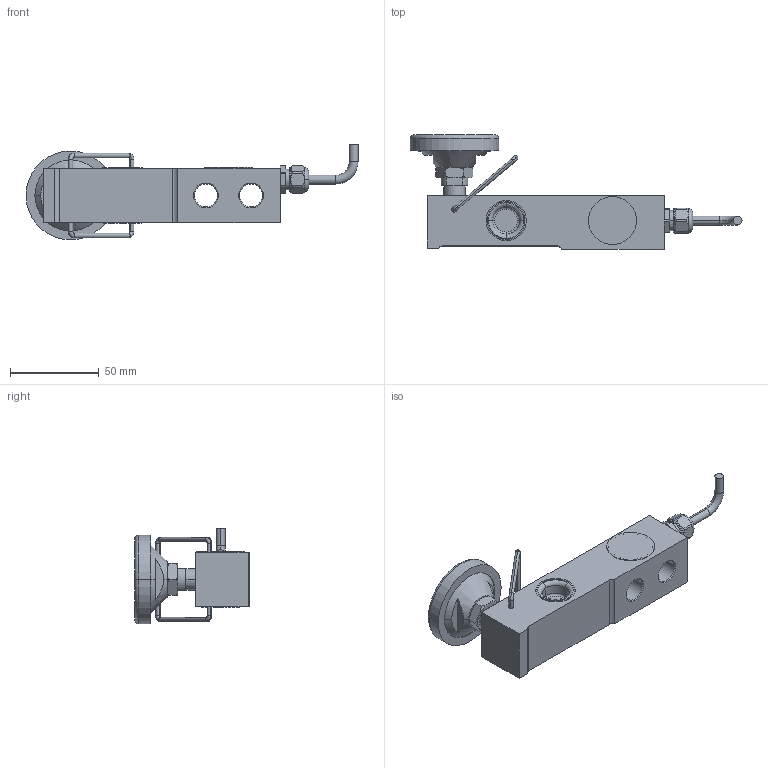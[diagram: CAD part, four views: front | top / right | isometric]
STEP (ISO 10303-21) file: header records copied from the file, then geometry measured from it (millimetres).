
FILE_DESCRIPTION((''),'2;1');
FILE_NAME('72208674-0745A-110KG-_SW0001','2014-07-30T',('wang-379'),(''),'PRO/ENGINEER BY PARAMETRIC TECHNOLOGY CORPORATION, 2013320','PRO/ENGINEER BY PARAMETRIC TECHNOLOGY CORPORATION, 2013320','');
FILE_SCHEMA(('CONFIG_CONTROL_DESIGN'));
Length unit declared in the file: millimetre
Products named in the file (1): 72208674-0745A-110KG-_SW0001
Bounding box: 186.72 x 64.18 x 53.88 mm (x, y, z)
Volume: 124853.1 mm3; surface area: 38419.3 mm2
Topology: 5 solids, 5 shells, 250 faces, 670 edges, 441 vertices
Faces by surface type: cylinder 81, plane 69, cone 54, torus 44, sphere 2
Entity records: 8712 total; most frequent: CARTESIAN_POINT 2175, DIRECTION 1475, ORIENTED_EDGE 1336, EDGE_CURVE 668, AXIS2_PLACEMENT_3D 630, VERTEX_POINT 441, CIRCLE 380, EDGE_LOOP 275
